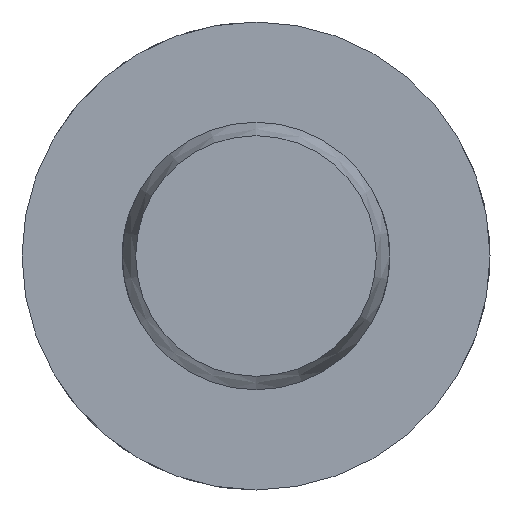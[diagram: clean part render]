
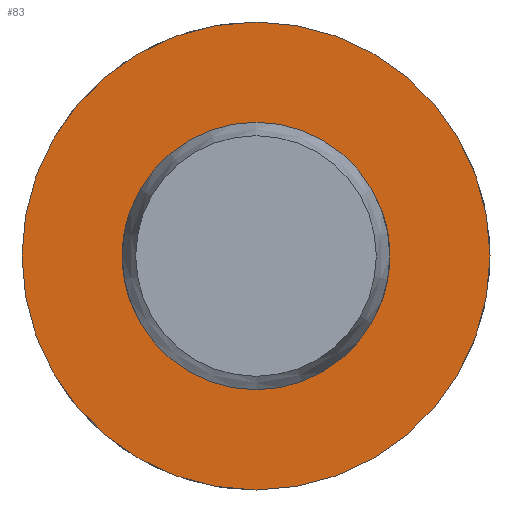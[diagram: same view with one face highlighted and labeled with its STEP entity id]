
A CAD part, left-side view. The second image highlights one B-rep face of the part: STEP entity #83.
In plain terms, the highlighted planar face has unit normal (-1, 0, 0).
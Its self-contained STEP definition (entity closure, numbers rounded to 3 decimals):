
#83 = ADVANCED_FACE( '', ( #128, #129 ), #130, .F. );
#128 = FACE_OUTER_BOUND( '', #204, .T. );
#129 = FACE_BOUND( '', #205, .T. );
#130 = PLANE( '', #206 );
#204 = EDGE_LOOP( '', ( #318 ) );
#205 = EDGE_LOOP( '', ( #319 ) );
#206 = AXIS2_PLACEMENT_3D( '', #320, #321, #322 );
#318 = ORIENTED_EDGE( '', *, *, #481, .F. );
#319 = ORIENTED_EDGE( '', *, *, #471, .T. );
#320 = CARTESIAN_POINT( '', ( 38.2, 4., 0. ) );
#321 = DIRECTION( '', ( 1., 0., 0. ) );
#322 = DIRECTION( '', ( 0., 0., -1. ) );
#471 = EDGE_CURVE( '', #541, #541, #542, .T. );
#481 = EDGE_CURVE( '', #559, #559, #560, .T. );
#541 = VERTEX_POINT( '', #726 );
#542 = CIRCLE( '', #727, 4. );
#559 = VERTEX_POINT( '', #861 );
#560 = CIRCLE( '', #862, 7. );
#726 = CARTESIAN_POINT( '', ( 38.2, 0., -4. ) );
#727 = AXIS2_PLACEMENT_3D( '', #923, #924, #925 );
#861 = CARTESIAN_POINT( '', ( 38.2, 0., -7. ) );
#862 = AXIS2_PLACEMENT_3D( '', #944, #945, #946 );
#923 = CARTESIAN_POINT( '', ( 38.2, 0., 0. ) );
#924 = DIRECTION( '', ( 1., 0., 0. ) );
#925 = DIRECTION( '', ( 0., 0., -1. ) );
#944 = CARTESIAN_POINT( '', ( 38.2, 0., 0. ) );
#945 = DIRECTION( '', ( 1., 0., 0. ) );
#946 = DIRECTION( '', ( 0., 0., -1. ) );
